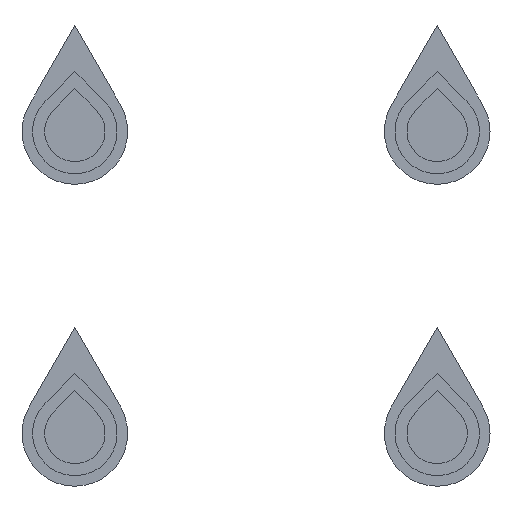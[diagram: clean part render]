
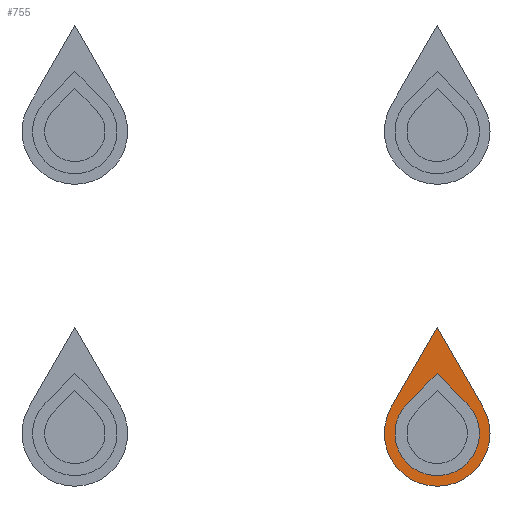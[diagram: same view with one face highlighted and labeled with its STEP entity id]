
A CAD part, front view. The second image highlights one B-rep face of the part: STEP entity #755.
In plain terms, the highlighted planar face has unit normal (0, -1, 0).
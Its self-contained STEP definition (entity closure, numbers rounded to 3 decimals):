
#535 = PLANE('',#536);
#536 = AXIS2_PLACEMENT_3D('',#537,#538,#539);
#537 = CARTESIAN_POINT('',(10.586,24.3,-4.086));
#538 = DIRECTION('',(0.707,0.,-0.707)
  );
#539 = DIRECTION('',(0.707,0.,0.707)
  );
#567 = CYLINDRICAL_SURFACE('',#568,2.);
#568 = AXIS2_PLACEMENT_3D('',#569,#570,#571);
#569 = CARTESIAN_POINT('',(12.,24.3,-5.5));
#570 = DIRECTION('',(0.,-1.,0.));
#571 = DIRECTION('',(0.707,0.,0.707)
  );
#592 = PLANE('',#593);
#593 = AXIS2_PLACEMENT_3D('',#594,#595,#596);
#594 = CARTESIAN_POINT('',(12.,24.3,-2.672));
#595 = DIRECTION('',(-0.707,0.,-0.707)
  );
#596 = DIRECTION('',(0.707,0.,-0.707)
  );
#608 = VERTEX_POINT('',#609);
#609 = CARTESIAN_POINT('',(10.586,27.8,-4.086));
#630 = EDGE_CURVE('',#608,#631,#633,.T.);
#631 = VERTEX_POINT('',#632);
#632 = CARTESIAN_POINT('',(12.,27.8,-2.672));
#633 = SURFACE_CURVE('',#634,(#638,#644),.PCURVE_S1.);
#634 = LINE('',#635,#636);
#635 = CARTESIAN_POINT('',(10.586,27.8,-4.086));
#636 = VECTOR('',#637,1.);
#637 = DIRECTION('',(0.707,0.,0.707)
  );
#638 = PCURVE('',#535,#639);
#639 = DEFINITIONAL_REPRESENTATION('',(#640),#643);
#640 = B_SPLINE_CURVE_WITH_KNOTS('',1,(#641,#642),.UNSPECIFIED.,.F.,.F.,
  (2,2),(0.,2.),.PIECEWISE_BEZIER_KNOTS.);
#641 = CARTESIAN_POINT('',(0.,-3.5));
#642 = CARTESIAN_POINT('',(2.,-3.5));
#643 = ( GEOMETRIC_REPRESENTATION_CONTEXT(2) 
PARAMETRIC_REPRESENTATION_CONTEXT() REPRESENTATION_CONTEXT('2D SPACE',''
  ) );
#644 = PCURVE('',#645,#650);
#645 = PLANE('',#646);
#646 = AXIS2_PLACEMENT_3D('',#647,#648,#649);
#647 = CARTESIAN_POINT('',(12.,27.8,-5.5));
#648 = DIRECTION('',(0.,1.,0.));
#649 = DIRECTION('',(1.,0.,-0.));
#650 = DEFINITIONAL_REPRESENTATION('',(#651),#654);
#651 = B_SPLINE_CURVE_WITH_KNOTS('',1,(#652,#653),.UNSPECIFIED.,.F.,.F.,
  (2,2),(0.,2.),.PIECEWISE_BEZIER_KNOTS.);
#652 = CARTESIAN_POINT('',(-1.414,-1.414));
#653 = CARTESIAN_POINT('',(0.,-2.828));
#654 = ( GEOMETRIC_REPRESENTATION_CONTEXT(2) 
PARAMETRIC_REPRESENTATION_CONTEXT() REPRESENTATION_CONTEXT('2D SPACE',''
  ) );
#682 = EDGE_CURVE('',#631,#683,#685,.T.);
#683 = VERTEX_POINT('',#684);
#684 = CARTESIAN_POINT('',(13.414,27.8,-4.086));
#685 = SURFACE_CURVE('',#686,(#690,#696),.PCURVE_S1.);
#686 = LINE('',#687,#688);
#687 = CARTESIAN_POINT('',(12.707,27.8,-3.379));
#688 = VECTOR('',#689,1.);
#689 = DIRECTION('',(0.707,0.,-0.707)
  );
#690 = PCURVE('',#592,#691);
#691 = DEFINITIONAL_REPRESENTATION('',(#692),#695);
#692 = B_SPLINE_CURVE_WITH_KNOTS('',1,(#693,#694),.UNSPECIFIED.,.F.,.F.,
  (2,2),(-1.,1.),.PIECEWISE_BEZIER_KNOTS.);
#693 = CARTESIAN_POINT('',(0.,-3.5));
#694 = CARTESIAN_POINT('',(2.,-3.5));
#695 = ( GEOMETRIC_REPRESENTATION_CONTEXT(2) 
PARAMETRIC_REPRESENTATION_CONTEXT() REPRESENTATION_CONTEXT('2D SPACE',''
  ) );
#696 = PCURVE('',#645,#697);
#697 = DEFINITIONAL_REPRESENTATION('',(#698),#701);
#698 = B_SPLINE_CURVE_WITH_KNOTS('',1,(#699,#700),.UNSPECIFIED.,.F.,.F.,
  (2,2),(-1.,1.),.PIECEWISE_BEZIER_KNOTS.);
#699 = CARTESIAN_POINT('',(0.,-2.828));
#700 = CARTESIAN_POINT('',(1.414,-1.414));
#701 = ( GEOMETRIC_REPRESENTATION_CONTEXT(2) 
PARAMETRIC_REPRESENTATION_CONTEXT() REPRESENTATION_CONTEXT('2D SPACE',''
  ) );
#729 = EDGE_CURVE('',#608,#683,#730,.T.);
#730 = SURFACE_CURVE('',#731,(#736,#743),.PCURVE_S1.);
#731 = CIRCLE('',#732,2.);
#732 = AXIS2_PLACEMENT_3D('',#733,#734,#735);
#733 = CARTESIAN_POINT('',(12.,27.8,-5.5));
#734 = DIRECTION('',(0.,-1.,0.));
#735 = DIRECTION('',(0.707,0.,0.707)
  );
#736 = PCURVE('',#567,#737);
#737 = DEFINITIONAL_REPRESENTATION('',(#738),#742);
#738 = LINE('',#739,#740);
#739 = CARTESIAN_POINT('',(-6.283,-3.5));
#740 = VECTOR('',#741,1.);
#741 = DIRECTION('',(1.,-0.));
#742 = ( GEOMETRIC_REPRESENTATION_CONTEXT(2) 
PARAMETRIC_REPRESENTATION_CONTEXT() REPRESENTATION_CONTEXT('2D SPACE',''
  ) );
#743 = PCURVE('',#645,#744);
#744 = DEFINITIONAL_REPRESENTATION('',(#745),#753);
#745 = ( BOUNDED_CURVE() B_SPLINE_CURVE(2,(#746,#747,#748,#749,#750,#751
,#752),.UNSPECIFIED.,.T.,.F.) B_SPLINE_CURVE_WITH_KNOTS((1,2,2,2,2,1),(
    -2.094,0.,2.094,4.189,6.283,
8.378),.UNSPECIFIED.) CURVE() GEOMETRIC_REPRESENTATION_ITEM() 
RATIONAL_B_SPLINE_CURVE((1.,0.5,1.,0.5,1.,0.5,1.)) REPRESENTATION_ITEM(
  '') );
#746 = CARTESIAN_POINT('',(1.414,-1.414));
#747 = CARTESIAN_POINT('',(-1.035,-3.864));
#748 = CARTESIAN_POINT('',(-1.932,-0.518));
#749 = CARTESIAN_POINT('',(-2.828,2.828));
#750 = CARTESIAN_POINT('',(0.518,1.932));
#751 = CARTESIAN_POINT('',(3.864,1.035));
#752 = CARTESIAN_POINT('',(1.414,-1.414));
#753 = ( GEOMETRIC_REPRESENTATION_CONTEXT(2) 
PARAMETRIC_REPRESENTATION_CONTEXT() REPRESENTATION_CONTEXT('2D SPACE',''
  ) );
#755 = ADVANCED_FACE('',(#756,#843),#645,.F.);
#756 = FACE_BOUND('',#757,.F.);
#757 = EDGE_LOOP('',(#758,#789,#817));
#758 = ORIENTED_EDGE('',*,*,#759,.T.);
#759 = EDGE_CURVE('',#760,#762,#764,.T.);
#760 = VERTEX_POINT('',#761);
#761 = CARTESIAN_POINT('',(15.031,27.8,-3.75));
#762 = VERTEX_POINT('',#763);
#763 = CARTESIAN_POINT('',(8.969,27.8,-3.75));
#764 = SURFACE_CURVE('',#765,(#770,#777),.PCURVE_S1.);
#765 = CIRCLE('',#766,3.5);
#766 = AXIS2_PLACEMENT_3D('',#767,#768,#769);
#767 = CARTESIAN_POINT('',(12.,27.8,-5.5));
#768 = DIRECTION('',(0.,1.,0.));
#769 = DIRECTION('',(0.866,0.,0.5));
#770 = PCURVE('',#645,#771);
#771 = DEFINITIONAL_REPRESENTATION('',(#772),#776);
#772 = CIRCLE('',#773,3.5);
#773 = AXIS2_PLACEMENT_2D('',#774,#775);
#774 = CARTESIAN_POINT('',(0.,0.));
#775 = DIRECTION('',(0.866,-0.5));
#776 = ( GEOMETRIC_REPRESENTATION_CONTEXT(2) 
PARAMETRIC_REPRESENTATION_CONTEXT() REPRESENTATION_CONTEXT('2D SPACE',''
  ) );
#777 = PCURVE('',#778,#783);
#778 = CYLINDRICAL_SURFACE('',#779,3.5);
#779 = AXIS2_PLACEMENT_3D('',#780,#781,#782);
#780 = CARTESIAN_POINT('',(12.,27.8,-5.5));
#781 = DIRECTION('',(0.,-1.,0.));
#782 = DIRECTION('',(0.866,0.,0.5));
#783 = DEFINITIONAL_REPRESENTATION('',(#784),#788);
#784 = LINE('',#785,#786);
#785 = CARTESIAN_POINT('',(-0.,0.));
#786 = VECTOR('',#787,1.);
#787 = DIRECTION('',(-1.,0.));
#788 = ( GEOMETRIC_REPRESENTATION_CONTEXT(2) 
PARAMETRIC_REPRESENTATION_CONTEXT() REPRESENTATION_CONTEXT('2D SPACE',''
  ) );
#789 = ORIENTED_EDGE('',*,*,#790,.T.);
#790 = EDGE_CURVE('',#762,#791,#793,.T.);
#791 = VERTEX_POINT('',#792);
#792 = CARTESIAN_POINT('',(12.,27.8,1.5));
#793 = SURFACE_CURVE('',#794,(#798,#805),.PCURVE_S1.);
#794 = LINE('',#795,#796);
#795 = CARTESIAN_POINT('',(8.969,27.8,-3.75));
#796 = VECTOR('',#797,1.);
#797 = DIRECTION('',(0.5,0.,0.866));
#798 = PCURVE('',#645,#799);
#799 = DEFINITIONAL_REPRESENTATION('',(#800),#804);
#800 = LINE('',#801,#802);
#801 = CARTESIAN_POINT('',(-3.031,-1.75));
#802 = VECTOR('',#803,1.);
#803 = DIRECTION('',(0.5,-0.866));
#804 = ( GEOMETRIC_REPRESENTATION_CONTEXT(2) 
PARAMETRIC_REPRESENTATION_CONTEXT() REPRESENTATION_CONTEXT('2D SPACE',''
  ) );
#805 = PCURVE('',#806,#811);
#806 = PLANE('',#807);
#807 = AXIS2_PLACEMENT_3D('',#808,#809,#810);
#808 = CARTESIAN_POINT('',(8.969,27.8,-3.75));
#809 = DIRECTION('',(0.866,0.,-0.5));
#810 = DIRECTION('',(0.5,0.,0.866));
#811 = DEFINITIONAL_REPRESENTATION('',(#812),#816);
#812 = LINE('',#813,#814);
#813 = CARTESIAN_POINT('',(0.,0.));
#814 = VECTOR('',#815,1.);
#815 = DIRECTION('',(1.,0.));
#816 = ( GEOMETRIC_REPRESENTATION_CONTEXT(2) 
PARAMETRIC_REPRESENTATION_CONTEXT() REPRESENTATION_CONTEXT('2D SPACE',''
  ) );
#817 = ORIENTED_EDGE('',*,*,#818,.T.);
#818 = EDGE_CURVE('',#791,#760,#819,.T.);
#819 = SURFACE_CURVE('',#820,(#824,#831),.PCURVE_S1.);
#820 = LINE('',#821,#822);
#821 = CARTESIAN_POINT('',(12.,27.8,1.5));
#822 = VECTOR('',#823,1.);
#823 = DIRECTION('',(0.5,0.,-0.866));
#824 = PCURVE('',#645,#825);
#825 = DEFINITIONAL_REPRESENTATION('',(#826),#830);
#826 = LINE('',#827,#828);
#827 = CARTESIAN_POINT('',(0.,-7.));
#828 = VECTOR('',#829,1.);
#829 = DIRECTION('',(0.5,0.866));
#830 = ( GEOMETRIC_REPRESENTATION_CONTEXT(2) 
PARAMETRIC_REPRESENTATION_CONTEXT() REPRESENTATION_CONTEXT('2D SPACE',''
  ) );
#831 = PCURVE('',#832,#837);
#832 = PLANE('',#833);
#833 = AXIS2_PLACEMENT_3D('',#834,#835,#836);
#834 = CARTESIAN_POINT('',(12.,27.8,1.5));
#835 = DIRECTION('',(-0.866,0.,-0.5));
#836 = DIRECTION('',(0.5,0.,-0.866));
#837 = DEFINITIONAL_REPRESENTATION('',(#838),#842);
#838 = LINE('',#839,#840);
#839 = CARTESIAN_POINT('',(0.,0.));
#840 = VECTOR('',#841,1.);
#841 = DIRECTION('',(1.,0.));
#842 = ( GEOMETRIC_REPRESENTATION_CONTEXT(2) 
PARAMETRIC_REPRESENTATION_CONTEXT() REPRESENTATION_CONTEXT('2D SPACE',''
  ) );
#843 = FACE_BOUND('',#844,.F.);
#844 = EDGE_LOOP('',(#845,#846,#847));
#845 = ORIENTED_EDGE('',*,*,#630,.F.);
#846 = ORIENTED_EDGE('',*,*,#729,.T.);
#847 = ORIENTED_EDGE('',*,*,#682,.F.);
